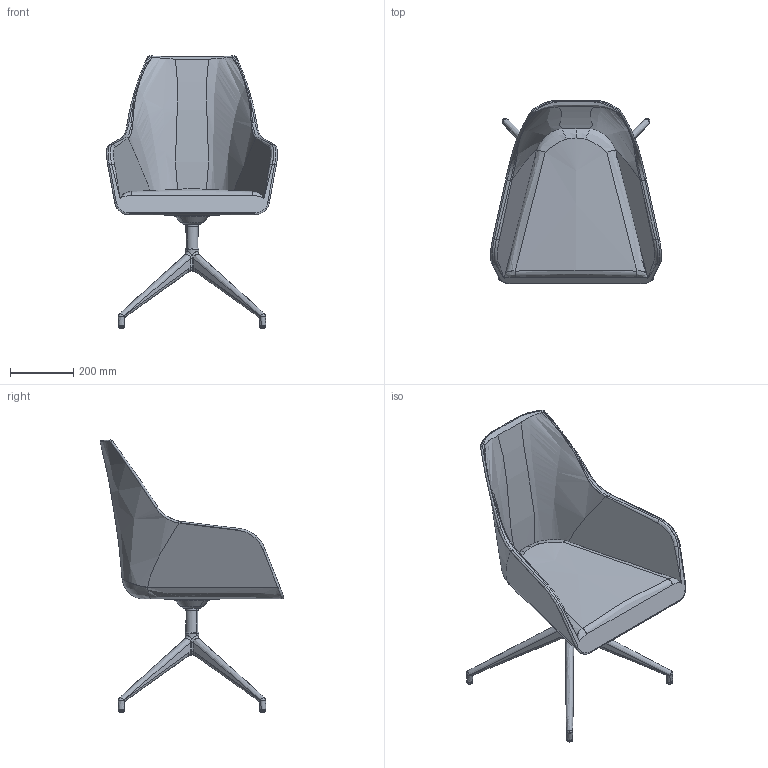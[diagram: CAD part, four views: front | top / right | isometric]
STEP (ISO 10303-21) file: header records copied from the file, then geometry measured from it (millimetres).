
FILE_DESCRIPTION(/* description */ (''),/* implementation_level */ '2;1');
FILE_NAME(/* name */ 'KINOSH~2',/* time_stamp */ '2019-07-19T10:41:55+09:00',/* author */ (''),/* organization */ (''),/* preprocessor_version */ 'ST-DEVELOPER v15',/* originating_system */ '',/* authorisation */ '');
FILE_SCHEMA (('AUTOMOTIVE_DESIGN'));
Length unit declared in the file: millimetre
Products named in the file (2): Document; ﾌﾞﾛｯｸ 33
Assembly tree (1 placements, depth 2):
  Document
    ﾌﾞﾛｯｸ 33
Bounding box: 540.21 x 579.95 x 859.97 mm (x, y, z)
Volume: 354108.1 mm3; surface area: 1335617 mm2
Topology: 5 solids, 8 shells, 1566 faces, 4323 edges, 2662 vertices
Faces by surface type: bspline 1034, plane 532
Entity records: 86602 total; most frequent: CARTESIAN_POINT 62165, ORIENTED_EDGE 8290, EDGE_CURVE 4314, B_SPLINE_CURVE_WITH_KNOTS 2737, VERTEX_POINT 2662, EDGE_LOOP 1577, ADVANCED_FACE 1566, FACE_OUTER_BOUND 1566
